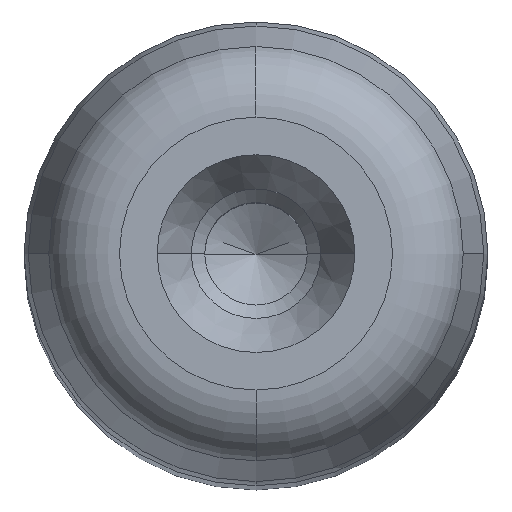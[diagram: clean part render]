
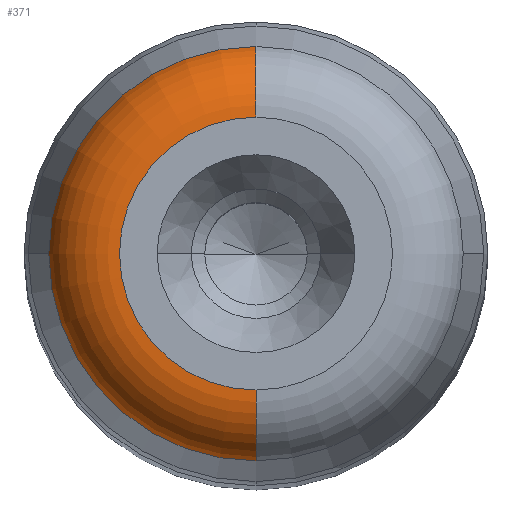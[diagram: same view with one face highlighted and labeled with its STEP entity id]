
A CAD part, top view. The second image highlights one B-rep face of the part: STEP entity #371.
In plain terms, the highlighted toroidal (fillet/blend) face has major radius 5.59 mm and minor radius 3 mm.
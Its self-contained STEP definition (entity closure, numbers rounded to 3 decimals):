
#319=CARTESIAN_POINT('',(0.0,107.0,0.0));
#320=DIRECTION('',(0.0,1.0,0.0));
#321=DIRECTION('',(0.0,0.0,1.0));
#322=AXIS2_PLACEMENT_3D('',#319,#320,#321);
#323=TOROIDAL_SURFACE('',#322,5.59,3.0);
#324=CARTESIAN_POINT('',(0.0,110.0,5.59));
#325=VERTEX_POINT('',#324);
#326=CARTESIAN_POINT('',(0.0,107.776,8.488));
#327=VERTEX_POINT('',#326);
#328=CARTESIAN_POINT('',(0.0,107.0,5.59));
#329=DIRECTION('',(1.0,0.0,0.0));
#330=DIRECTION('',(0.0,0.0,1.0));
#331=AXIS2_PLACEMENT_3D('',#328,#329,#330);
#332=CIRCLE('',#331,3.0);
#333=EDGE_CURVE('',#325,#327,#332,.T.);
#334=ORIENTED_EDGE('',*,*,#333,.F.);
#335=CARTESIAN_POINT('',(0.,110.0,-5.59));
#336=VERTEX_POINT('',#335);
#337=CARTESIAN_POINT('',(0.0,110.0,0.0));
#338=DIRECTION('',(0.0,1.0,0.0));
#339=DIRECTION('',(1.0,0.0,0.0));
#340=AXIS2_PLACEMENT_3D('',#337,#338,#339);
#341=CIRCLE('',#340,5.59);
#342=EDGE_CURVE('',#336,#325,#341,.T.);
#343=ORIENTED_EDGE('',*,*,#342,.F.);
#344=CARTESIAN_POINT('',(0.,107.776,-8.488));
#345=VERTEX_POINT('',#344);
#346=CARTESIAN_POINT('',(0.,107.0,-5.59));
#347=DIRECTION('',(-1.0,0.0,0.0));
#348=DIRECTION('',(0.0,0.0,-1.0));
#349=AXIS2_PLACEMENT_3D('',#346,#347,#348);
#350=CIRCLE('',#349,3.0);
#351=EDGE_CURVE('',#336,#345,#350,.T.);
#352=ORIENTED_EDGE('',*,*,#351,.T.);
#353=CARTESIAN_POINT('',(-8.488,107.776,0.));
#354=VERTEX_POINT('',#353);
#355=CARTESIAN_POINT('',(0.0,107.776,0.0));
#356=DIRECTION('',(0.0,1.0,0.0));
#357=DIRECTION('',(1.0,0.0,0.0));
#358=AXIS2_PLACEMENT_3D('',#355,#356,#357);
#359=CIRCLE('',#358,8.488);
#360=EDGE_CURVE('',#345,#354,#359,.T.);
#361=ORIENTED_EDGE('',*,*,#360,.T.);
#362=CARTESIAN_POINT('',(0.0,107.776,0.0));
#363=DIRECTION('',(0.0,1.0,0.0));
#364=DIRECTION('',(1.0,0.0,0.0));
#365=AXIS2_PLACEMENT_3D('',#362,#363,#364);
#366=CIRCLE('',#365,8.488);
#367=EDGE_CURVE('',#354,#327,#366,.T.);
#368=ORIENTED_EDGE('',*,*,#367,.T.);
#369=EDGE_LOOP('',(#334,#343,#352,#361,#368));
#370=FACE_OUTER_BOUND('',#369,.T.);
#371=ADVANCED_FACE('',(#370),#323,.T.);
